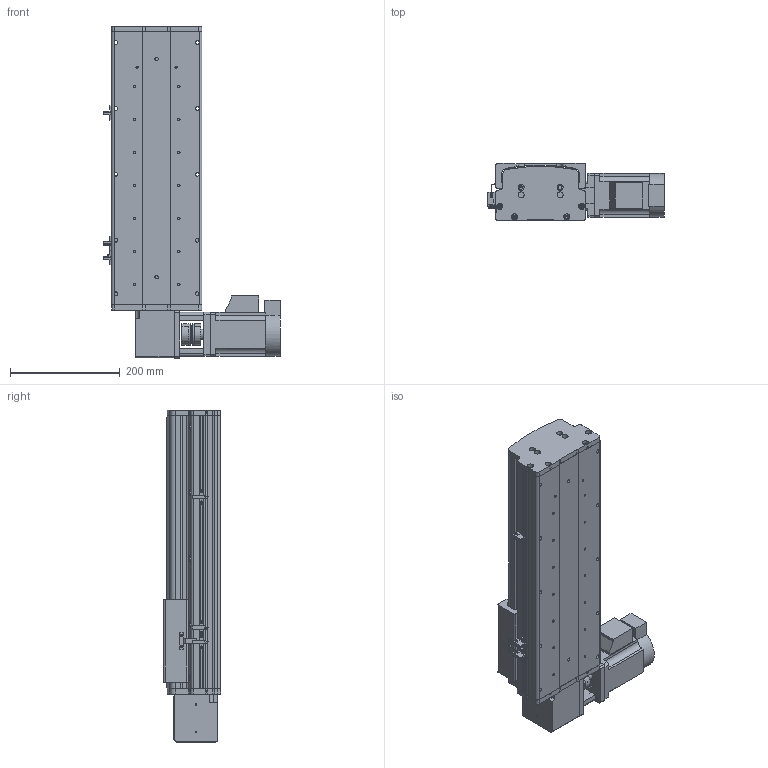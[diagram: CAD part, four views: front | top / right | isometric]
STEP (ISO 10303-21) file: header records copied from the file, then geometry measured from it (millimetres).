
FILE_DESCRIPTION (( 'STEP AP214' ), '1' );
FILE_NAME ('KSD165B-S250-MRT-CM .STEP', '2017-08-07T09:18:36', ( '微软用户' ), ( '微软中国' ), 'SwSTEP 2.0', 'SolidWorks 2014', '' );
FILE_SCHEMA (( 'AUTOMOTIVE_DESIGN' ));
Length unit declared in the file: millimetre
Products named in the file (16): KSD165模组-同步带防尘盖1-250行程-最新版; KSD165模组同步带底板-250行程-最新; 拸秶雄ん750W侜督萇儂; 165宽安装板同步带带电机座750W; 165宽马达安装板同步带右; C39ㄜ1419WP; U倰嫖萇假蚾璃; U倰嫖萇EEㄜSX672; 覜茼え68遵圉猾敕; KSD165模组-同步带-防撞垫2; KSD165模组同步带-防撞垫1; KSD165耀郪-ヶ傷啣1-肮祭湍; KSD165模组-后端板1-同步带; 130宽马达安装板1-带电机座750W（1）; KSD165模组-同步带滑动座-最新版; KSD165B-S250-MRT-CM 
Assembly tree (19 placements, depth 2):
  KSD165B-S250-MRT-CM 
    KSD165模组-同步带滑动座-最新版
    130宽马达安装板1-带电机座750W（1）
    KSD165模组-后端板1-同步带
    KSD165耀郪-ヶ傷啣1-肮祭湍
    KSD165模组同步带-防撞垫1
    KSD165模组-同步带-防撞垫2
    覜茼え68遵圉猾敕
    U倰嫖萇EEㄜSX672  x3
    U倰嫖萇假蚾璃  x3
    C39ㄜ1419WP
    165宽马达安装板同步带右
    165宽安装板同步带带电机座750W
    拸秶雄ん750W侜督萇儂
    KSD165模组同步带底板-250行程-最新
    KSD165模组-同步带防尘盖1-250行程-最新版
Bounding box: 321.2 x 104 x 604 mm (x, y, z)
Volume: 4499780.8 mm3; surface area: 984562.2 mm2
Topology: 20 solids, 20 shells, 1402 faces, 3882 edges, 2509 vertices
Faces by surface type: cylinder 739, plane 569, cone 94
Entity records: 43671 total; most frequent: CARTESIAN_POINT 9185, DIRECTION 6828, ORIENTED_EDGE 6416, EDGE_CURVE 3208, AXIS2_PLACEMENT_3D 2576, VERTEX_POINT 2101, LINE 1676, VECTOR 1676
